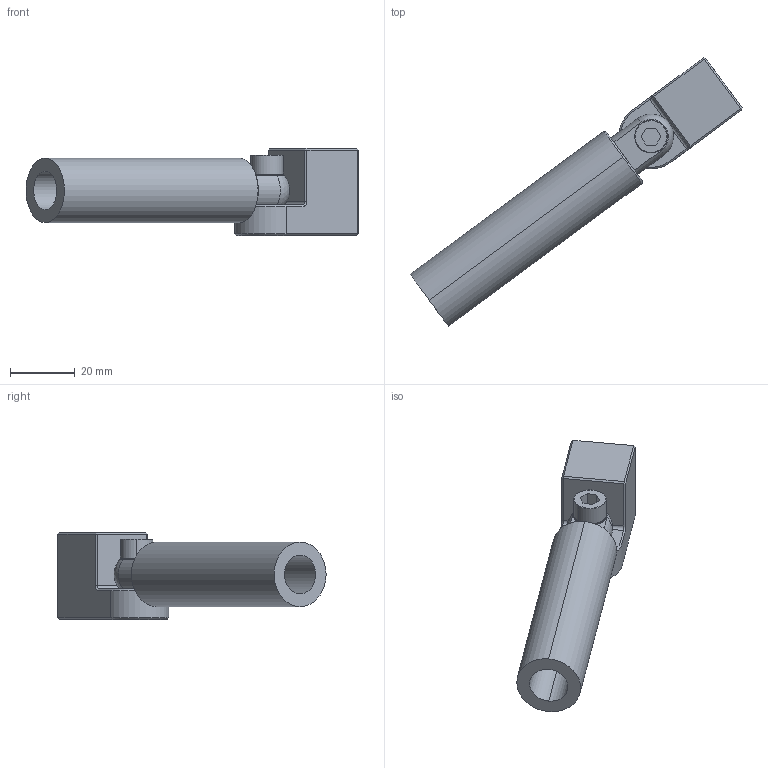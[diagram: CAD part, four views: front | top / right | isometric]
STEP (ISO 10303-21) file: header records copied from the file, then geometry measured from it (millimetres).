
FILE_DESCRIPTION (( 'STEP AP214' ), '1' );
FILE_NAME ('SEAV-G1420L75T.STEP', '2023-02-03T02:30:59', ( 'Windows User' ), ( 'P R C' ), 'SwSTEP 2.0', 'SolidWorks 2019', '' );
FILE_SCHEMA (( 'AUTOMOTIVE_DESIGN' ));
Length unit declared in the file: millimetre
Products named in the file (5): SEAV-G1420L75T; PTS-M6; SEAV-G1420L150.2; SEAV-G1420L75.1; PTC-M6L14
Assembly tree (4 placements, depth 2):
  SEAV-G1420L75T
    PTC-M6L14
    PTS-M6
    SEAV-G1420L150.2
    SEAV-G1420L75.1
Bounding box: 102.78 x 83.02 x 27 mm (x, y, z)
Volume: 28696.6 mm3; surface area: 14119.6 mm2
Topology: 4 solids, 4 shells, 246 faces, 679 edges, 438 vertices
Faces by surface type: plane 198, cylinder 27, cone 20, sphere 1
Entity records: 8230 total; most frequent: DIRECTION 1400, CARTESIAN_POINT 1379, ORIENTED_EDGE 1344, EDGE_CURVE 672, AXIS2_PLACEMENT_3D 481, LINE 438, VECTOR 438, VERTEX_POINT 436
